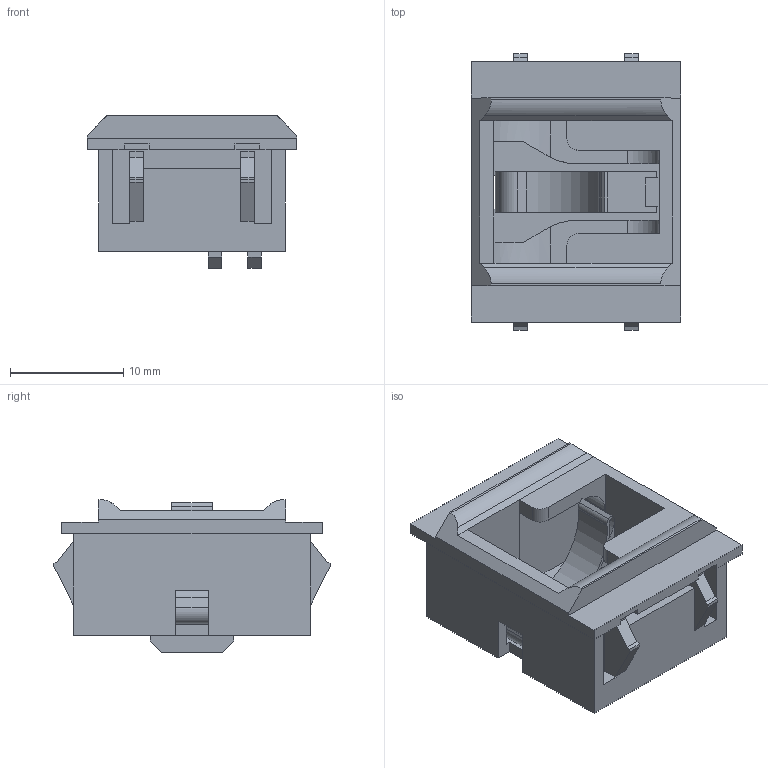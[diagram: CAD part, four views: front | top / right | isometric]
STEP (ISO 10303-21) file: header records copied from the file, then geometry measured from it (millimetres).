
FILE_DESCRIPTION((' '),'1');
FILE_NAME('01VYS0EY02.stp','2014-10-02 T10:54:24',(''),(''),'STEP Interface 2013.192 by CT CoreTechnologie','3D_Evolution2013.192 by CT CoreTechnologie','');
FILE_SCHEMA(('AP203_CONFIGURATION_CONTROLLED_3D_DESIGN_OF_MECHANICAL_PARTS_AND_ASSEMBLIES_MIM_LF'));
Length unit declared in the file: millimetre
Products named in the file (1): 01VYS0EY02
Bounding box: 18.5 x 24.4 x 13.5 mm (x, y, z)
Volume: 1693.3 mm3; surface area: 3318.3 mm2
Topology: 1 solids, 1 shells, 280 faces, 788 edges, 520 vertices
Faces by surface type: plane 226, cylinder 36, bspline 18
Entity records: 11876 total; most frequent: CARTESIAN_POINT 2423, ORIENTED_EDGE 1576, DIRECTION 1346, EDGE_CURVE 788, VECTOR 676, LINE 676, VERTEX_POINT 520, AXIS2_PLACEMENT_3D 335
